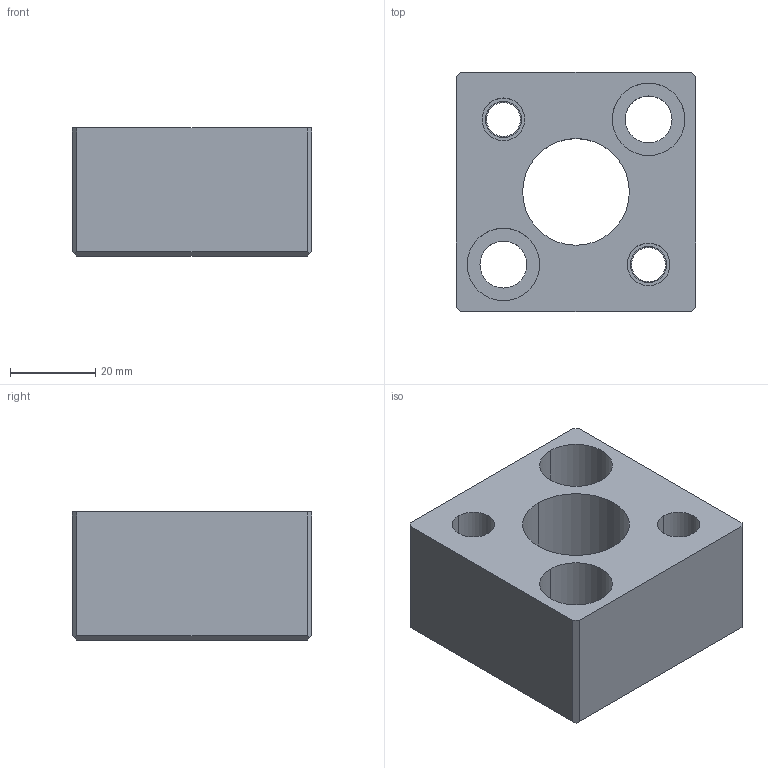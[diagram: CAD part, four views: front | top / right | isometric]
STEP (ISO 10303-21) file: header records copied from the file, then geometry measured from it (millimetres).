
FILE_DESCRIPTION(/* description */ (''),/* implementation_level */ '2;1');
FILE_NAME(/* name */ '3d_sr-an25_05468_r00.stp',/* time_stamp */ '2011-01-10T14:10:00+09:00',/* author */ ('MISUMI'),/* organization */ (''),/* preprocessor_version */ 'ST-DEVELOPER v11',/* originating_system */ 'UGS - NX 5.0',/* authorisation */ '');
FILE_SCHEMA (('CONFIG_CONTROL_DESIGN'));
Length unit declared in the file: millimetre
Products named in the file (1): 3d_sr-an25_05468_r00
Bounding box: 56 x 56 x 30 mm (x, y, z)
Volume: 65641.8 mm3; surface area: 17851.3 mm2
Topology: 1 solids, 1 shells, 47 faces, 112 edges, 74 vertices
Faces by surface type: cylinder 24, plane 21, cone 2
Entity records: 1486 total; most frequent: DIRECTION 258, CARTESIAN_POINT 234, ORIENTED_EDGE 224, EDGE_CURVE 112, AXIS2_PLACEMENT_3D 98, VERTEX_POINT 74, EDGE_LOOP 64, LINE 62
